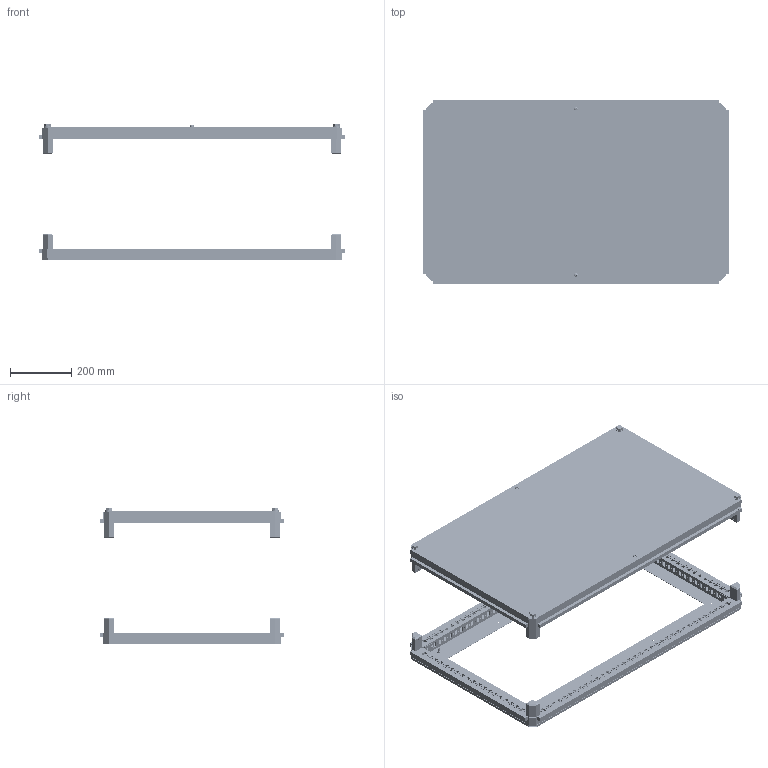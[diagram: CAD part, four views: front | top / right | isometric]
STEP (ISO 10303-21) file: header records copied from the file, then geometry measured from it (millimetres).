
FILE_DESCRIPTION (( 'STEP AP214' ), '1' );
FILE_NAME ('FO-00-KOF-060-100 Êðûøà è îñíîâàíèå (ïîä ôëàíåö) 600õ1000 ìì.STEP', '2025-08-25T12:08:10', ( '' ), ( '' ), 'SwSTEP 2.0', 'SolidWorks 2023', '' );
FILE_SCHEMA (( 'AUTOMOTIVE_DESIGN' ));
Length unit declared in the file: millimetre
Products named in the file (3): Основание под фланец 600х1000; Крыша под фланец 600х1000; FO-00-KOF-060-100 Крыша и основание (под фланец) 600х1000 мм
Assembly tree (2 placements, depth 2):
  FO-00-KOF-060-100 Крыша и основание (под фланец) 600х1000 мм
    Крыша под фланец 600х1000
    Основание под фланец 600х1000
Bounding box: 1000.1 x 600.1 x 446.9 mm (x, y, z)
Volume: 4009362.7 mm3; surface area: 3391625.2 mm2
Topology: 2 solids, 46 shells, 5477 faces, 15376 edges, 10182 vertices
Faces by surface type: plane 3311, cylinder 1724, cone 242, bspline 192, torus 4, sphere 4
Entity records: 185003 total; most frequent: CARTESIAN_POINT 39278, ORIENTED_EDGE 30744, DIRECTION 28900, EDGE_CURVE 15372, LINE 10420, VECTOR 10420, VERTEX_POINT 10182, AXIS2_PLACEMENT_3D 9240
